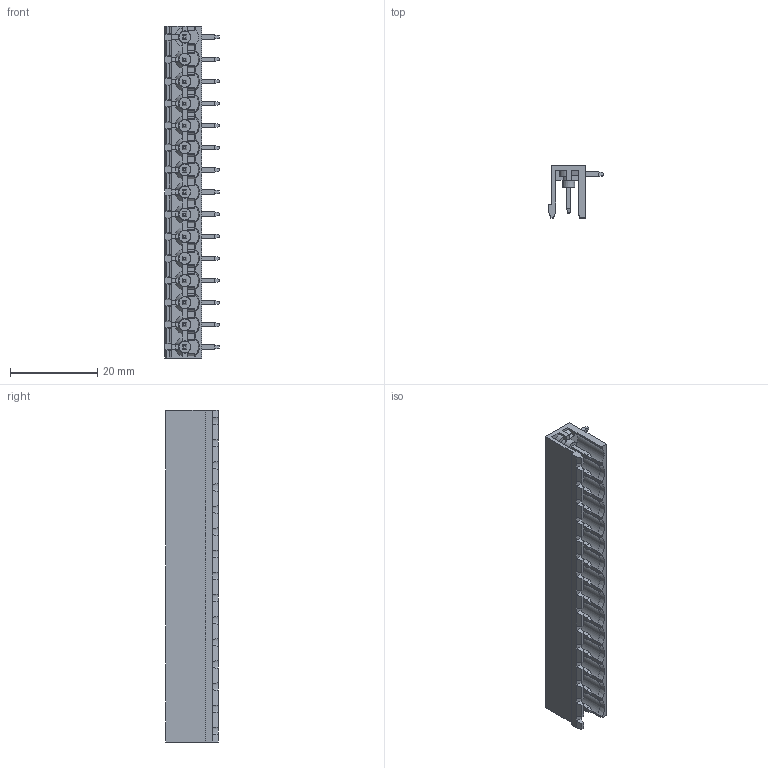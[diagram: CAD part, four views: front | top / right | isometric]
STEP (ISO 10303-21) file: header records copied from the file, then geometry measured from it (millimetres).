
FILE_DESCRIPTION (( 'STEP AP203' ), '1' );
FILE_NAME ('BR8MN1-15.STEP', '2020-03-18T03:16:44', ( '' ), ( '' ), 'SwSTEP 2.0', 'SolidWorks 2019', '' );
FILE_SCHEMA (( 'CONFIG_CONTROL_DESIGN' ));
Length unit declared in the file: millimetre
Products named in the file (1): BR8MN1-15
Bounding box: 12.5 x 12 x 76.2 mm (x, y, z)
Volume: 2909.5 mm3; surface area: 6492.7 mm2
Topology: 1 solids, 1 shells, 1264 faces, 3294 edges, 2032 vertices
Faces by surface type: plane 1086, cylinder 76, cone 72, sphere 30
Entity records: 37568 total; most frequent: CARTESIAN_POINT 7171, ORIENTED_EDGE 6468, DIRECTION 5921, EDGE_CURVE 3234, VECTOR 2761, LINE 2761, VERTEX_POINT 2002, AXIS2_PLACEMENT_3D 1580
